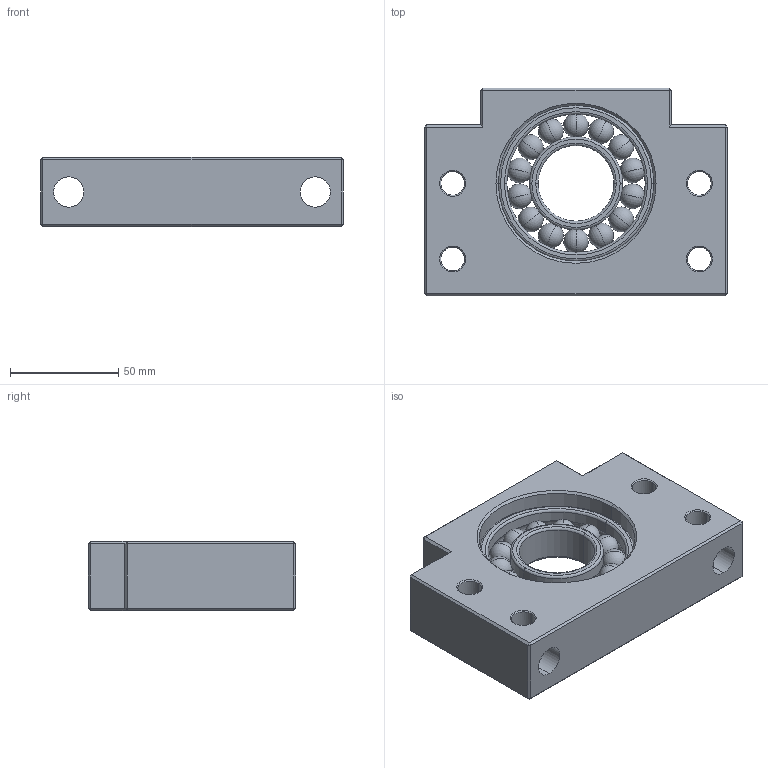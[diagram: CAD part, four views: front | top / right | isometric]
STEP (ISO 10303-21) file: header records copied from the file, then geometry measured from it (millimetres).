
FILE_DESCRIPTION (( 'STEP AP203' ), '1' );
FILE_NAME ('BF35²Õ¦X¥ó.STEP', '2017-12-27T08:17:48', ( '' ), ( '' ), 'SwSTEP 2.0', 'SolidWorks 2017', '' );
FILE_SCHEMA (( 'CONFIG_CONTROL_DESIGN' ));
Length unit declared in the file: millimetre
Products named in the file (1): BF35組合件
Bounding box: 140 x 96 x 32 mm (x, y, z)
Surface area: 62324.7 mm2 (no closed solid volume)
Topology: 0 solids, 17 shells, 160 faces, 408 edges, 248 vertices
Faces by surface type: plane 50, cylinder 36, sphere 28, cone 24, torus 22
Entity records: 4987 total; most frequent: CARTESIAN_POINT 1409, DIRECTION 780, ORIENTED_EDGE 672, EDGE_CURVE 338, AXIS2_PLACEMENT_3D 313, VERTEX_POINT 206, EDGE_LOOP 180, ADVANCED_FACE 160
